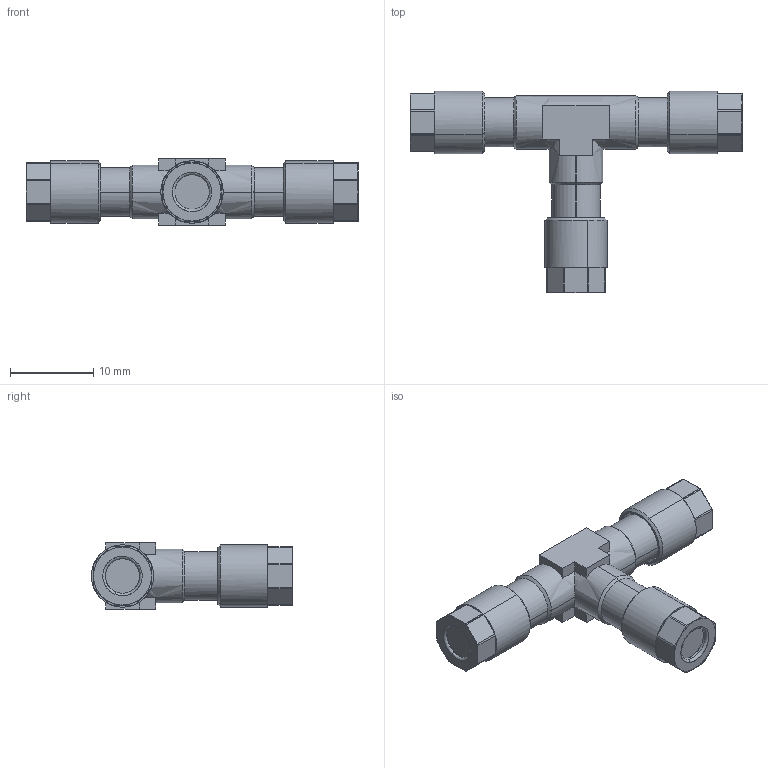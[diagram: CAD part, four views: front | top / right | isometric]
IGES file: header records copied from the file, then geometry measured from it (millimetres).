
Start section: SolidWorks IGES file using analytic representation for surfaces
Global section: file name: K:\Disegni Esecutivi\Serie 1000\Complessivi Serie 1000\1230\1230_iges\0123000001A.IGS; native system: SolidWorks 2008; preprocessor: SolidWorks 2008; author: cad05; date: 090210.140026; units: millimetre
Bounding box: 40 x 24.25 x 8 mm (x, y, z)
Surface area: 1487.2 mm2 (no closed solid volume)
Topology: 0 solids, 0 shells, 148 faces, 1343 edges, 1343 vertices
Faces by surface type: bspline 81, revolution 67
